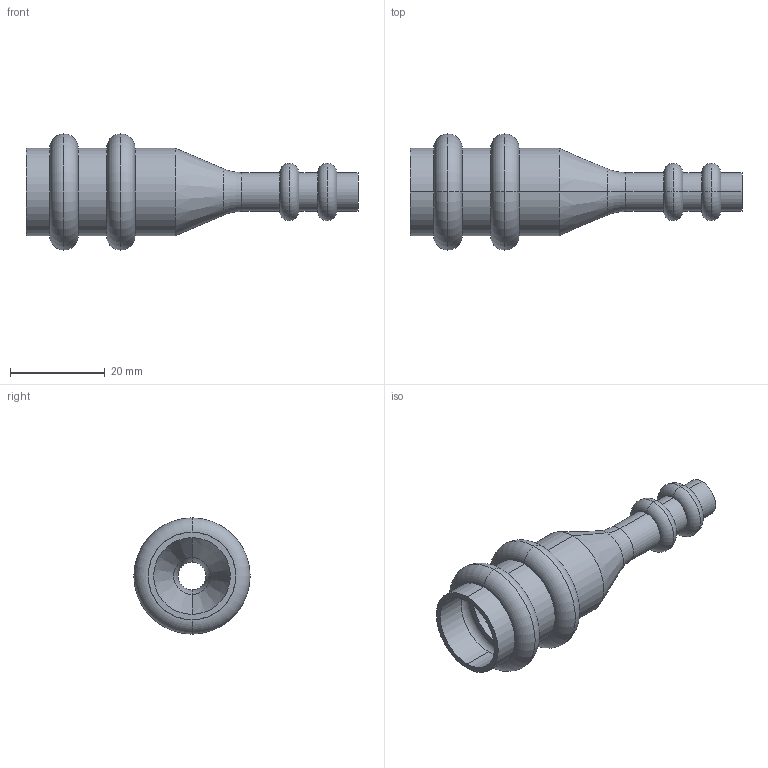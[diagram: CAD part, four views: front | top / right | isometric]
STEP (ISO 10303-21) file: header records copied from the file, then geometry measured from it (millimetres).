
FILE_DESCRIPTION(('starvars output'),'1');
FILE_NAME('cv20240422105250000011961.stp','10:52:50 2024/04/22',('Thomas Industrial Network Germany GmbH'),(' '),'Spatial InterOp 3D',' ',' ');
FILE_SCHEMA(('AUTOMOTIVE_DESIGN { 1 0 10303 214 3 1 1 }'));
Length unit declared in the file: millimetre
Products named in the file (1): 1
Bounding box: 70 x 24.5 x 24.5 mm (x, y, z)
Volume: 4100 mm3; surface area: 7368.7 mm2
Topology: 1 solids, 1 shells, 84 faces, 168 edges, 104 vertices
Faces by surface type: torus 36, cylinder 24, plane 20, cone 4
Entity records: 2940 total; most frequent: DIRECTION 478, CARTESIAN_POINT 357, ORIENTED_EDGE 336, AXIS2_PLACEMENT_3D 225, EDGE_CURVE 168, CIRCLE 140, EDGE_LOOP 104, VERTEX_POINT 104
